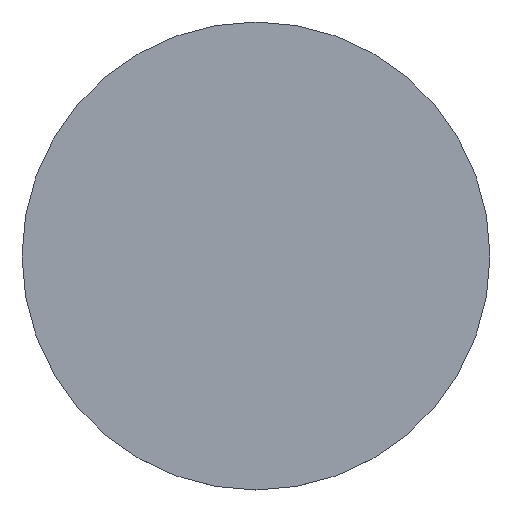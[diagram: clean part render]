
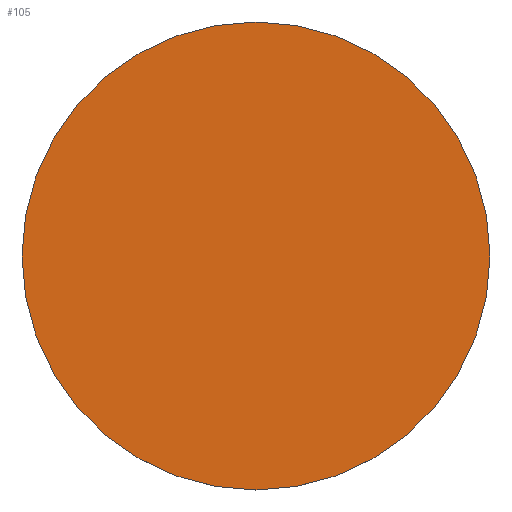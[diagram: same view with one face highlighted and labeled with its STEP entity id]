
A CAD part, top view. The second image highlights one B-rep face of the part: STEP entity #105.
In plain terms, the highlighted planar face has unit normal (0, 0, 1).
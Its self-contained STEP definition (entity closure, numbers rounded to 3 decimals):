
#21 = EDGE_CURVE('',#22,#22,#24,.T.);
#22 = VERTEX_POINT('',#23);
#23 = CARTESIAN_POINT('',(-355.,155.,237.));
#24 = SURFACE_CURVE('',#25,(#30,#42),.PCURVE_S1.);
#25 = CIRCLE('',#26,140.);
#26 = AXIS2_PLACEMENT_3D('',#27,#28,#29);
#27 = CARTESIAN_POINT('',(-495.,155.,237.));
#28 = DIRECTION('',(0.,0.,1.));
#29 = DIRECTION('',(1.,0.,-0.));
#30 = PCURVE('',#31,#36);
#31 = CYLINDRICAL_SURFACE('',#32,140.);
#32 = AXIS2_PLACEMENT_3D('',#33,#34,#35);
#33 = CARTESIAN_POINT('',(-495.,155.,233.));
#34 = DIRECTION('',(0.,0.,1.));
#35 = DIRECTION('',(1.,0.,-0.));
#36 = DEFINITIONAL_REPRESENTATION('',(#37),#41);
#37 = LINE('',#38,#39);
#38 = CARTESIAN_POINT('',(0.,4.));
#39 = VECTOR('',#40,1.);
#40 = DIRECTION('',(1.,0.));
#41 = ( GEOMETRIC_REPRESENTATION_CONTEXT(2) 
PARAMETRIC_REPRESENTATION_CONTEXT() REPRESENTATION_CONTEXT('2D SPACE',''
  ) );
#42 = PCURVE('',#43,#48);
#43 = PLANE('',#44);
#44 = AXIS2_PLACEMENT_3D('',#45,#46,#47);
#45 = CARTESIAN_POINT('',(-495.,155.,237.));
#46 = DIRECTION('',(0.,0.,1.));
#47 = DIRECTION('',(1.,0.,-0.));
#48 = DEFINITIONAL_REPRESENTATION('',(#49),#53);
#49 = CIRCLE('',#50,140.);
#50 = AXIS2_PLACEMENT_2D('',#51,#52);
#51 = CARTESIAN_POINT('',(0.,0.));
#52 = DIRECTION('',(1.,0.));
#53 = ( GEOMETRIC_REPRESENTATION_CONTEXT(2) 
PARAMETRIC_REPRESENTATION_CONTEXT() REPRESENTATION_CONTEXT('2D SPACE',''
  ) );
#105 = ADVANCED_FACE('',(#106),#43,.T.);
#106 = FACE_BOUND('',#107,.T.);
#107 = EDGE_LOOP('',(#108));
#108 = ORIENTED_EDGE('',*,*,#21,.T.);
